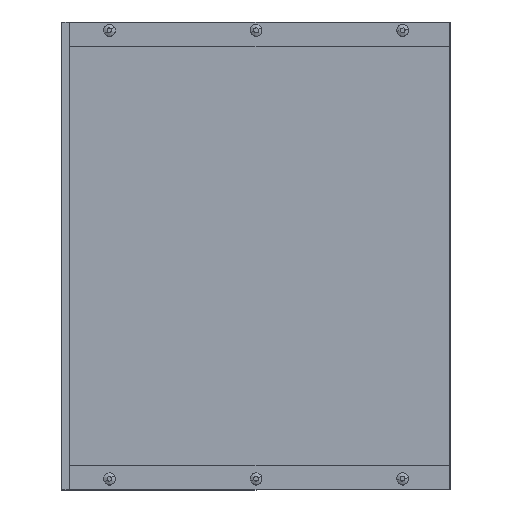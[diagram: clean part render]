
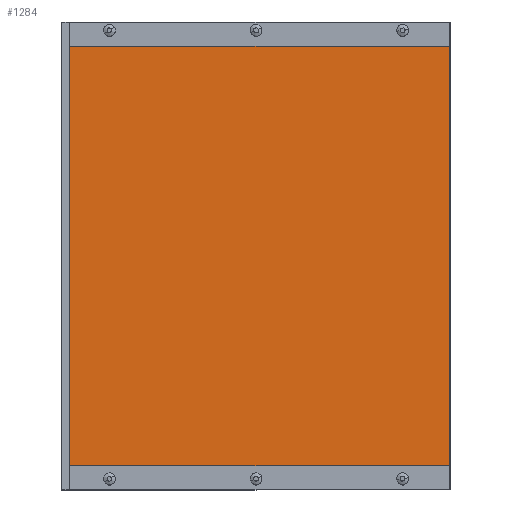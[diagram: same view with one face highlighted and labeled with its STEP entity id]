
A CAD part, front view. The second image highlights one B-rep face of the part: STEP entity #1284.
In plain terms, the highlighted planar face has unit normal (0, -1, 0).
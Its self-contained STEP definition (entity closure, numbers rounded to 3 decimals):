
#62 = EDGE_CURVE ( 'NONE', #236, #3843, #2135, .T. ) ;
#121 = VECTOR ( 'NONE', #3814, 1000. ) ;
#126 = LINE ( 'NONE', #1762, #4149 ) ;
#236 = VERTEX_POINT ( 'NONE', #3353 ) ;
#369 = FACE_OUTER_BOUND ( 'NONE', #1890, .T. ) ;
#376 = VERTEX_POINT ( 'NONE', #963 ) ;
#432 = ORIENTED_EDGE ( 'NONE', *, *, #454, .T. ) ;
#435 = DIRECTION ( 'NONE',  ( 0., 1., 0. ) ) ;
#454 = EDGE_CURVE ( 'NONE', #3843, #376, #126, .T. ) ;
#482 = CARTESIAN_POINT ( 'NONE',  ( -6.6, 61.1, 454. ) ) ;
#684 = PLANE ( 'NONE',  #2950 ) ;
#723 = LINE ( 'NONE', #3516, #121 ) ;
#963 = CARTESIAN_POINT ( 'NONE',  ( -6.6, 61.1, 25. ) ) ;
#1284 = ADVANCED_FACE ( 'NONE', ( #369 ), #684, .F. ) ;
#1497 = VERTEX_POINT ( 'NONE', #1839 ) ;
#1655 = ORIENTED_EDGE ( 'NONE', *, *, #1928, .F. ) ;
#1690 = EDGE_CURVE ( 'NONE', #1497, #236, #723, .T. ) ;
#1762 = CARTESIAN_POINT ( 'NONE',  ( -6.6, 61.1, 479. ) ) ;
#1839 = CARTESIAN_POINT ( 'NONE',  ( 388.6, 61.1, 25. ) ) ;
#1852 = CARTESIAN_POINT ( 'NONE',  ( -8., 61.1, 25. ) ) ;
#1890 = EDGE_LOOP ( 'NONE', ( #432, #1655, #3113, #3449 ) ) ;
#1928 = EDGE_CURVE ( 'NONE', #1497, #376, #2877, .T. ) ;
#2113 = CARTESIAN_POINT ( 'NONE',  ( -8., 61.1, 479. ) ) ;
#2135 = LINE ( 'NONE', #2744, #3126 ) ;
#2744 = CARTESIAN_POINT ( 'NONE',  ( 0., 61.1, 454. ) ) ;
#2877 = LINE ( 'NONE', #1852, #3320 ) ;
#2950 = AXIS2_PLACEMENT_3D ( 'NONE', #2113, #435, #3474 ) ;
#3113 = ORIENTED_EDGE ( 'NONE', *, *, #1690, .T. ) ;
#3126 = VECTOR ( 'NONE', #4179, 1000. ) ;
#3320 = VECTOR ( 'NONE', #3538, 1000. ) ;
#3353 = CARTESIAN_POINT ( 'NONE',  ( 388.6, 61.1, 454. ) ) ;
#3449 = ORIENTED_EDGE ( 'NONE', *, *, #62, .T. ) ;
#3474 = DIRECTION ( 'NONE',  ( 0., 0., 1. ) ) ;
#3516 = CARTESIAN_POINT ( 'NONE',  ( 388.6, 61.1, 479. ) ) ;
#3538 = DIRECTION ( 'NONE',  ( -1., 0., 0. ) ) ;
#3575 = DIRECTION ( 'NONE',  ( 0., 0., -1. ) ) ;
#3814 = DIRECTION ( 'NONE',  ( 0., 0., 1. ) ) ;
#3843 = VERTEX_POINT ( 'NONE', #482 ) ;
#4149 = VECTOR ( 'NONE', #3575, 1000. ) ;
#4179 = DIRECTION ( 'NONE',  ( -1., 0., 0. ) ) ;
